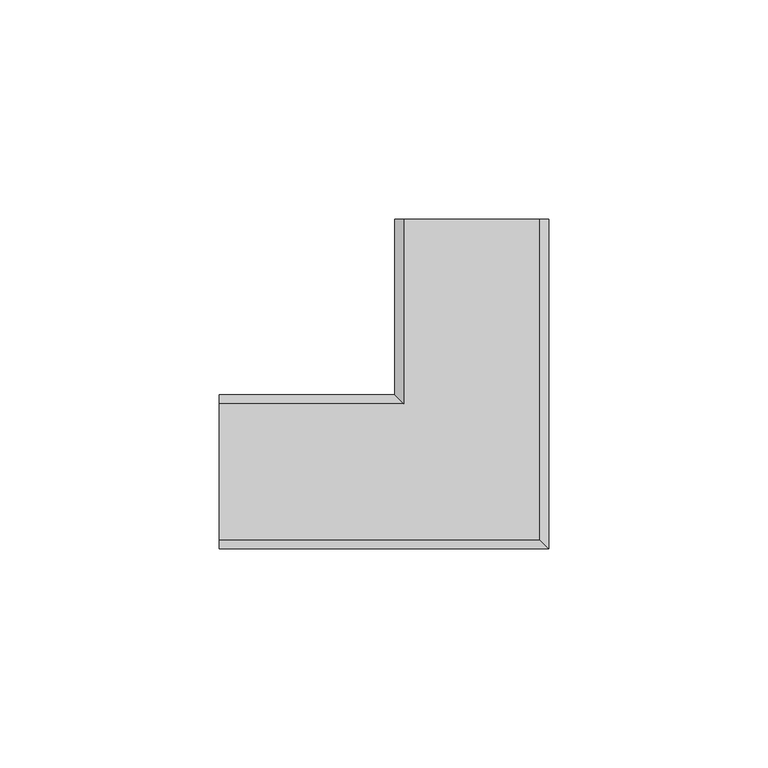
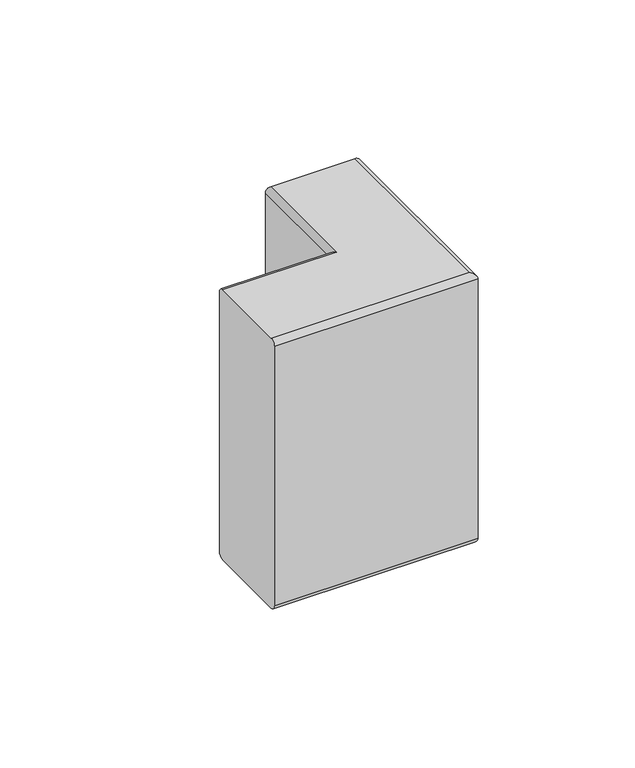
"""IFC4 building model written with IfcOpenShell, lengths in millimetres: duct fitting geometry, Угол плоский 90° - для односекционных кабель-каналов DLP - белый : 35/50х80мм."""

from ifc_helpers import new_model, si_unit, frame, origin, place, context, project, spatial, circle_curve, ellipse_curve, source, transform, mapped, element, save
from ifc_brep_helpers import plane_surface, cylinder_surface, advanced_brep


def duct_fitting_1d27a6c2(model_context):
    return source(origin(), model_context, "Body", "AdvancedBrep", [
        advanced_brep(
        [(34.4265001, 36.8417726, 48.7223119), (36.4265001, 36.8417726, 46.7223119), (36.4265001, 36.8417726, -54.2776881), (34.4265001, 36.8417726, -56.2776881), (3.4265001, 36.8417726, -56.2776881), (1.4265001, 36.8417726, -54.2776881), (1.4265001, 36.8417726, 46.7223119), (3.4265001, 36.8417726, 48.7223119), (34.4265001, -36.1582274, 48.7223119), (36.4265001, -38.1582274, 46.7223119), (36.4265001, -38.1582274, -54.2776881), (34.4265001, -36.1582274, -56.2776881), (-38.5734999, -36.1582274, -56.2776881), (-38.5734999, -5.1582274, -56.2776881), (3.4265001, -5.1582274, -56.2776881), (1.4265001, -3.1582274, -54.2776881), (1.4265001, -3.1582274, 46.7223119), (3.4265001, -5.1582274, 48.7223119), (-38.5734999, -5.1582274, 48.7223119), (-38.5734999, -36.1582274, 48.7223119), (-38.5734999, -3.1582274, 46.7223119), (-38.5734999, -3.1582274, -54.2776881), (-38.5734999, -38.1582274, -54.2776881), (-38.5734999, -38.1582274, 46.7223119)],
        [
            (0, 1, circle_curve(frame((34.4265001, 36.8417726, 46.7223119), z_axis=(0.0, 1.0, 0.0), x_axis=(1.0, 0.0, 0.0)), 2.0)),
            (1, 2),
            (2, 3, circle_curve(frame((34.4265001, 36.8417726, -54.2776881), z_axis=(0.0, 1.0, 0.0), x_axis=(1.0, 0.0, 0.0)), 2.0)),
            (3, 4),
            (4, 5, circle_curve(frame((3.4265001, 36.8417726, -54.2776881), z_axis=(0.0, 1.0, 0.0), x_axis=(1.0, 0.0, 0.0)), 2.0)),
            (5, 6),
            (6, 7, circle_curve(frame((3.4265001, 36.8417726, 46.7223119), z_axis=(0.0, 1.0, 0.0), x_axis=(1.0, 0.0, 0.0)), 2.0)),
            (7, 0),
            (0, 8),
            (8, 9, ellipse_curve(frame((34.4265001, -36.1582274, 46.7223119), z_axis=(0.7071067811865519, 0.7071067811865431, 0.0), x_axis=(-0.707106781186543, 0.707106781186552, 0.0)), 2.8284271, 2.0)),
            (9, 1),
            (9, 10),
            (10, 2),
            (10, 11, ellipse_curve(frame((34.4265001, -36.1582274, -54.2776881), z_axis=(0.7071067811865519, 0.7071067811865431, 0.0), x_axis=(-0.707106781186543, 0.707106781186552, 0.0)), 2.8284271, 2.0)),
            (11, 3),
            (11, 12),
            (12, 13),
            (13, 14),
            (14, 4),
            (14, 15, ellipse_curve(frame((3.4265001, -5.1582274, -54.2776881), z_axis=(0.7071067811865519, 0.7071067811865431, 0.0), x_axis=(-0.707106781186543, 0.707106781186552, 0.0)), 2.8284271, 2.0)),
            (15, 5),
            (15, 16),
            (16, 6),
            (16, 17, ellipse_curve(frame((3.4265001, -5.1582274, 46.7223119), z_axis=(0.7071067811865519, 0.7071067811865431, 0.0), x_axis=(-0.707106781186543, 0.707106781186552, 0.0)), 2.8284271, 2.0)),
            (17, 7),
            (17, 18),
            (18, 19),
            (19, 8),
            (18, 20, circle_curve(frame((-38.5734999, -5.1582274, 46.7223119), z_axis=(-1.0, 0.0, 0.0), x_axis=(0.0, -1.0, 0.0)), 2.0)),
            (20, 21),
            (21, 13, circle_curve(frame((-38.5734999, -5.1582274, -54.2776881), z_axis=(-1.0, 0.0, 0.0), x_axis=(0.0, -1.0, 0.0)), 2.0)),
            (12, 22, circle_curve(frame((-38.5734999, -36.1582274, -54.2776881), z_axis=(-1.0, 0.0, 0.0), x_axis=(0.0, -1.0, 0.0)), 2.0)),
            (22, 23),
            (23, 19, circle_curve(frame((-38.5734999, -36.1582274, 46.7223119), z_axis=(-1.0, 0.0, 0.0), x_axis=(0.0, -1.0, 0.0)), 2.0)),
            (23, 9),
            (22, 10),
            (21, 15),
            (20, 16),
        ],
        [
            plane_surface(frame((18.9265001, 36.8417726, -3.7776881), z_axis=(0.0, 1.0, 0.0), x_axis=(0.0, 0.0, 1.0))),
            cylinder_surface(frame((34.4265001, 36.8417726, 46.7223119), z_axis=(0.0, 1.0, 0.0), x_axis=(1.0, 0.0, 0.0)), 2.0),
            plane_surface(frame((36.4265001, 36.8417726, 46.7223119), z_axis=(1.0, 0.0, 0.0), x_axis=(0.0, -1.0, 0.0))),
            cylinder_surface(frame((34.4265001, 36.8417726, -54.2776881), z_axis=(0.0, 1.0, 0.0), x_axis=(1.0, 0.0, 0.0)), 2.0),
            plane_surface(frame((34.4265001, 36.8417726, -56.2776881), z_axis=(0.0, 0.0, -1.0), x_axis=(0.0, -1.0, 0.0))),
            cylinder_surface(frame((3.4265001, 36.8417726, -54.2776881), z_axis=(0.0, 1.0, 0.0), x_axis=(1.0, 0.0, 0.0)), 2.0),
            plane_surface(frame((1.4265001, 36.8417726, -54.2776881), z_axis=(-1.0, 0.0, 0.0), x_axis=(0.0, -1.0, 0.0))),
            cylinder_surface(frame((3.4265001, 36.8417726, 46.7223119), z_axis=(0.0, 1.0, 0.0), x_axis=(1.0, 0.0, 0.0)), 2.0),
            plane_surface(frame((3.4265001, 36.8417726, 48.7223119), z_axis=(0.0, 0.0, 1.0), x_axis=(0.0, -1.0, 0.0))),
            plane_surface(frame((-38.5734999, -20.6582274, -3.7776881), z_axis=(-1.0, 0.0, 0.0), x_axis=(0.0, 0.0, 1.0))),
            cylinder_surface(frame((18.9265001, -36.1582274, 46.7223119), z_axis=(1.0, 0.0, 0.0), x_axis=(0.0, -1.0, 0.0)), 2.0),
            plane_surface(frame((36.4265001, -38.1582274, 46.7223119), z_axis=(0.0, -1.0, 0.0), x_axis=(-1.0, 0.0, 0.0))),
            cylinder_surface(frame((18.9265001, -36.1582274, -54.2776881), z_axis=(1.0, 0.0, 0.0), x_axis=(0.0, -1.0, 0.0)), 2.0),
            cylinder_surface(frame((18.9265001, -5.1582274, -54.2776881), z_axis=(1.0, 0.0, 0.0), x_axis=(0.0, -1.0, 0.0)), 2.0),
            plane_surface(frame((1.4265001, -3.1582274, -54.2776881), z_axis=(0.0, 1.0, 0.0), x_axis=(-1.0, 0.0, 0.0))),
            cylinder_surface(frame((18.9265001, -5.1582274, 46.7223119), z_axis=(1.0, 0.0, 0.0), x_axis=(0.0, -1.0, 0.0)), 2.0),
        ],
        [
            (0, [[1, 2, 3, 4, 5, 6, 7, 8]]),
            (1, [[-1, 9, 10, 11]]),
            (2, [[-2, -11, 12, 13]]),
            (3, [[-3, -13, 14, 15]]),
            (4, [[-4, -15, 16, 17, 18, 19]]),
            (5, [[-5, -19, 20, 21]]),
            (6, [[-6, -21, 22, 23]]),
            (7, [[-7, -23, 24, 25]]),
            (8, [[-8, -25, 26, 27, 28, -9]]),
            (9, [[-27, 29, 30, 31, -17, 32, 33, 34]]),
            (10, [[-10, -28, -34, 35]]),
            (11, [[-12, -35, -33, 36]]),
            (12, [[-14, -36, -32, -16]]),
            (13, [[-20, -18, -31, 37]]),
            (14, [[-22, -37, -30, 38]]),
            (15, [[-24, -38, -29, -26]]),
        ],
    ),
    ])


if __name__ == "__main__":
    model = new_model("IFC4")
    model_context = context("Model", 3, world=origin())
    ifc_project = project(units=[si_unit("LENGTHUNIT", "METRE", prefix="MILLI")], contexts=[model_context])
    site = spatial("IfcSite", under=ifc_project)
    building = spatial("IfcBuilding", under=site)
    placement = place(None, origin())
    duct_fitting_shape = duct_fitting_1d27a6c2(model_context)
    element("IfcDuctFitting", 1, ObjectType="Угол плоский 90° - для односекционных кабель-каналов DLP - белый : 35/50х80мм", at=placement, inside=building, context=model_context, shape_type="MappedRepresentation", body=[
        mapped(duct_fitting_shape, transform((0.0, 0.0, 0.0), x_axis=(1.0, 0.0, 0.0), y_axis=(0.0, 1.0, 0.0), z_axis=(0.0, 0.0, 1.0))),
    ])
    save(model, "model.ifc")
